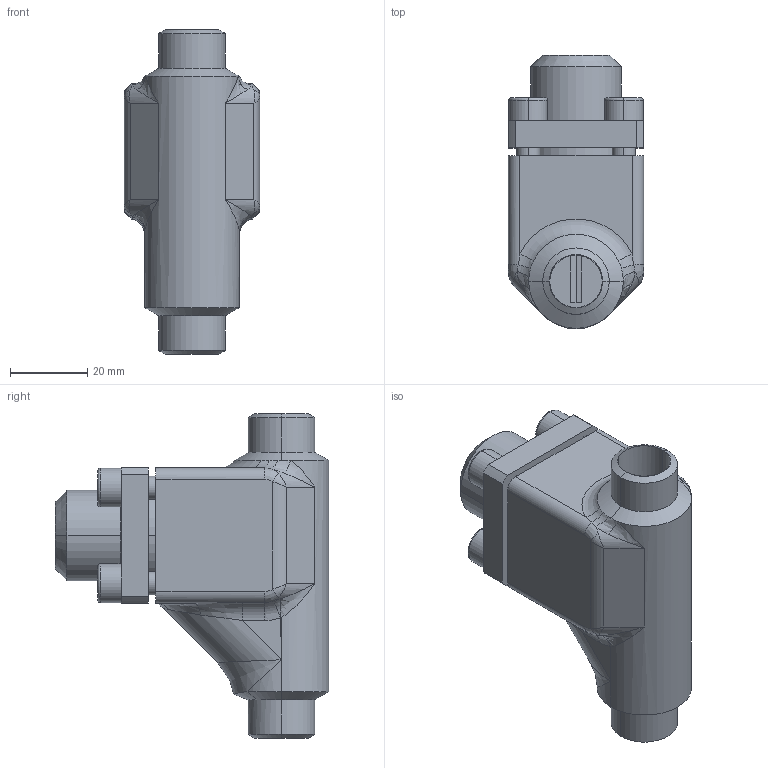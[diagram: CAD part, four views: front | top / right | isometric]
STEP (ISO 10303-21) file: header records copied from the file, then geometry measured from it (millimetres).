
FILE_DESCRIPTION (( 'STEP AP214' ), '1' );
FILE_NAME ('RV98300-DN010_R1_PS40.STEP', '2006-05-02T09:25:35', ( 'Herr Grams' ), ( 'AWP GmbH' ), 'SwSTEP 2.0', 'SolidWorks 2002296', '' );
FILE_SCHEMA (( 'AUTOMOTIVE_DESIGN' ));
Length unit declared in the file: millimetre
Products named in the file (5): RV98300-DN010_R1_PS40; RV98300E10_Deck+Schr-DN6-15_Standard; Deckel98300E10-DN6-15_PS40_Standard; Zylinderschraube-DIN912_M 6x 18; Gehäuse96300E08-DN10_PS40_R1_Standard
Assembly tree (7 placements, depth 3):
  RV98300-DN010_R1_PS40
    RV98300E10_Deck+Schr-DN6-15_Standard
      Zylinderschraube-DIN912_M 6x 18  x4
      Deckel98300E10-DN6-15_PS40_Standard
    Gehäuse96300E08-DN10_PS40_R1_Standard
Bounding box: 35 x 70.7 x 84 mm (x, y, z)
Volume: 64539.3 mm3; surface area: 24664.1 mm2
Topology: 6 solids, 6 shells, 208 faces, 490 edges, 298 vertices
Faces by surface type: plane 75, cylinder 72, bspline 29, cone 21, torus 11
Entity records: 16239 total; most frequent: CARTESIAN_POINT 12284, ORIENTED_EDGE 736, DIRECTION 686, EDGE_CURVE 368, AXIS2_PLACEMENT_3D 280, VERTEX_POINT 226, EDGE_LOOP 172, FACE_OUTER_BOUND 154
